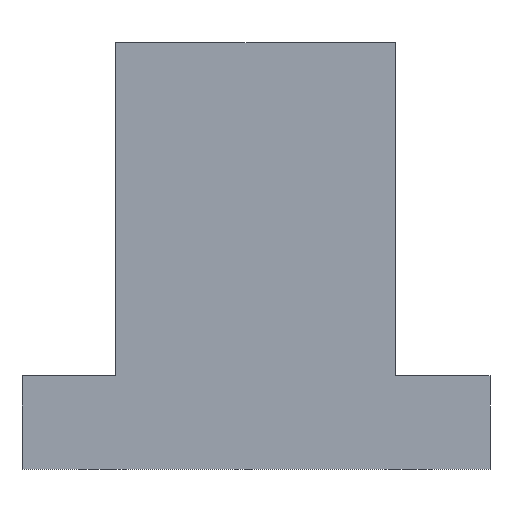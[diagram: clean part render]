
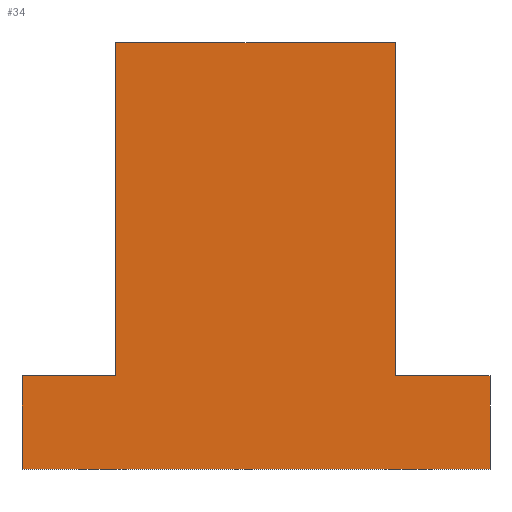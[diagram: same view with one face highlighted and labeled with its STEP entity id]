
A CAD part, front view. The second image highlights one B-rep face of the part: STEP entity #34.
In plain terms, the highlighted planar face has unit normal (0, -1, 0).
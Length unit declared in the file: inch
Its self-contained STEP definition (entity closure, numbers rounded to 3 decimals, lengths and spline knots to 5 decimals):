
#2 = CARTESIAN_POINT ( 'NONE',  ( -1.21736, -0.7653, 0. ) ) ;
#11 = EDGE_CURVE ( 'NONE', #729, #673, #415, .T. ) ;
#34 = ADVANCED_FACE ( 'NONE', ( #794 ), #359, .F. ) ;
#38 = ORIENTED_EDGE ( 'NONE', *, *, #200, .F. ) ;
#40 = DIRECTION ( 'NONE',  ( 0., 0., -1. ) ) ;
#50 = CARTESIAN_POINT ( 'NONE',  ( -0.71736, -0.7653, 0.5 ) ) ;
#82 = EDGE_CURVE ( 'NONE', #678, #455, #535, .T. ) ;
#85 = CARTESIAN_POINT ( 'NONE',  ( -0.71736, -0.7653, 2.28 ) ) ;
#90 = CARTESIAN_POINT ( 'NONE',  ( 0.77764, -0.7653, 2.28 ) ) ;
#101 = CARTESIAN_POINT ( 'NONE',  ( -1.21736, -0.7653, 0.5 ) ) ;
#115 = VECTOR ( 'NONE', #238, 39.37008 ) ;
#120 = DIRECTION ( 'NONE',  ( 0., 0., -1. ) ) ;
#122 = CARTESIAN_POINT ( 'NONE',  ( 1.28264, -0.7653, 0.5 ) ) ;
#126 = CARTESIAN_POINT ( 'NONE',  ( -0.71736, -0.7653, 2.28 ) ) ;
#137 = VERTEX_POINT ( 'NONE', #2 ) ;
#139 = AXIS2_PLACEMENT_3D ( 'NONE', #693, #815, #217 ) ;
#140 = CARTESIAN_POINT ( 'NONE',  ( -0.71736, -0.7653, 2.28 ) ) ;
#200 = EDGE_CURVE ( 'NONE', #695, #678, #211, .T. ) ;
#201 = CARTESIAN_POINT ( 'NONE',  ( 1.28264, -0.7653, 0.5 ) ) ;
#211 = LINE ( 'NONE', #227, #115 ) ;
#217 = DIRECTION ( 'NONE',  ( 0., 0., 1. ) ) ;
#227 = CARTESIAN_POINT ( 'NONE',  ( -1.21736, -0.7653, 0.5 ) ) ;
#235 = ORIENTED_EDGE ( 'NONE', *, *, #662, .T. ) ;
#238 = DIRECTION ( 'NONE',  ( 1., 0., 0. ) ) ;
#250 = ORIENTED_EDGE ( 'NONE', *, *, #11, .F. ) ;
#275 = LINE ( 'NONE', #126, #829 ) ;
#337 = EDGE_LOOP ( 'NONE', ( #388, #380, #38, #606, #250, #235, #722, #432 ) ) ;
#338 = VECTOR ( 'NONE', #866, 39.37008 ) ;
#359 = PLANE ( 'NONE',  #139 ) ;
#380 = ORIENTED_EDGE ( 'NONE', *, *, #82, .F. ) ;
#388 = ORIENTED_EDGE ( 'NONE', *, *, #436, .T. ) ;
#401 = VECTOR ( 'NONE', #881, 39.37008 ) ;
#402 = LINE ( 'NONE', #863, #338 ) ;
#415 = LINE ( 'NONE', #140, #730 ) ;
#424 = VERTEX_POINT ( 'NONE', #656 ) ;
#427 = EDGE_CURVE ( 'NONE', #424, #826, #558, .T. ) ;
#432 = ORIENTED_EDGE ( 'NONE', *, *, #803, .T. ) ;
#436 = EDGE_CURVE ( 'NONE', #137, #455, #654, .T. ) ;
#455 = VERTEX_POINT ( 'NONE', #641 ) ;
#505 = VECTOR ( 'NONE', #636, 39.37008 ) ;
#527 = EDGE_CURVE ( 'NONE', #673, #695, #402, .T. ) ;
#535 = LINE ( 'NONE', #201, #401 ) ;
#558 = LINE ( 'NONE', #647, #560 ) ;
#560 = VECTOR ( 'NONE', #645, 39.37008 ) ;
#606 = ORIENTED_EDGE ( 'NONE', *, *, #527, .F. ) ;
#622 = DIRECTION ( 'NONE',  ( 1., 0., 0. ) ) ;
#636 = DIRECTION ( 'NONE',  ( 1., 0., 0. ) ) ;
#641 = CARTESIAN_POINT ( 'NONE',  ( 1.28264, -0.7653, 0. ) ) ;
#645 = DIRECTION ( 'NONE',  ( 1., 0., 0. ) ) ;
#647 = CARTESIAN_POINT ( 'NONE',  ( -1.21736, -0.7653, 0.5 ) ) ;
#649 = CARTESIAN_POINT ( 'NONE',  ( -1.21736, -0.7653, 0. ) ) ;
#654 = LINE ( 'NONE', #649, #505 ) ;
#656 = CARTESIAN_POINT ( 'NONE',  ( -1.21736, -0.7653, 0.5 ) ) ;
#662 = EDGE_CURVE ( 'NONE', #729, #826, #275, .T. ) ;
#673 = VERTEX_POINT ( 'NONE', #90 ) ;
#678 = VERTEX_POINT ( 'NONE', #122 ) ;
#693 = CARTESIAN_POINT ( 'NONE',  ( -1.21736, -0.7653, 0.5 ) ) ;
#695 = VERTEX_POINT ( 'NONE', #854 ) ;
#722 = ORIENTED_EDGE ( 'NONE', *, *, #427, .F. ) ;
#729 = VERTEX_POINT ( 'NONE', #85 ) ;
#730 = VECTOR ( 'NONE', #622, 39.37008 ) ;
#746 = VECTOR ( 'NONE', #40, 39.37008 ) ;
#748 = LINE ( 'NONE', #101, #746 ) ;
#794 = FACE_OUTER_BOUND ( 'NONE', #337, .T. ) ;
#803 = EDGE_CURVE ( 'NONE', #424, #137, #748, .T. ) ;
#815 = DIRECTION ( 'NONE',  ( 0., 1., 0. ) ) ;
#826 = VERTEX_POINT ( 'NONE', #50 ) ;
#829 = VECTOR ( 'NONE', #120, 39.37008 ) ;
#854 = CARTESIAN_POINT ( 'NONE',  ( 0.77764, -0.7653, 0.5 ) ) ;
#863 = CARTESIAN_POINT ( 'NONE',  ( 0.77764, -0.7653, 2.28 ) ) ;
#866 = DIRECTION ( 'NONE',  ( 0., 0., -1. ) ) ;
#881 = DIRECTION ( 'NONE',  ( 0., 0., -1. ) ) ;
